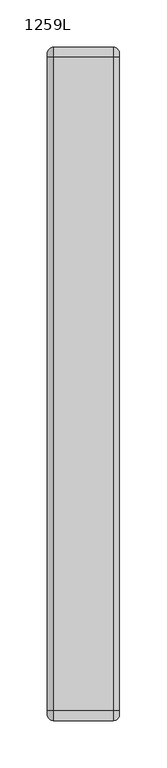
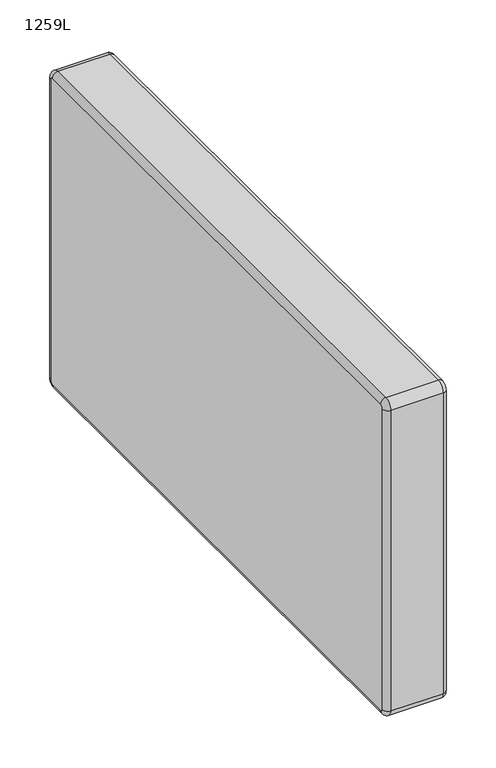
"""IFC4 building model written with IfcOpenShell, lengths in millimetres: furniture geometry, Laguna-Arm-Slim-ERG : 1259L."""

from ifc_helpers import new_model, si_unit, point, frame, origin, place, context, project, spatial, circle_curve, ellipse_curve, trimmed, source, transform, mapped, element, save
from ifc_brep_helpers import plane_surface, cylinder_surface, revolved_surface, advanced_brep


def furniture_1259l_e881bb67(model_context):
    return source(origin(), model_context, "Body", "AdvancedBrep", [
        advanced_brep(
        [(-4732.5921763, 548.3558502, 599.44), (-4732.5921763, 558.5158502, 609.6), (-4738.9421763, 558.5158502, 603.25), (-4738.9421763, 554.7058502, 599.44), (-4738.9421763, 554.7058502, 213.36), (-4732.5921763, 548.3558502, 213.36), (-4738.9421763, 558.5158502, 209.55), (-4732.5921763, 558.5158502, 203.2), (-4738.9421763, 1249.3958502, 209.55), (-4732.5921763, 1249.3958502, 203.2), (-4738.9421763, 1253.2058502, 213.36), (-4732.5921763, 1259.5558502, 213.36), (-4738.9421763, 1253.2058502, 599.44), (-4732.5921763, 1259.5558502, 599.44), (-4738.9421763, 1249.3958502, 603.25), (-4732.5921763, 1249.3958502, 609.6), (-4662.7421763, 558.5158502, 603.25), (-4662.7421763, 554.7058502, 599.44), (-4662.7421763, 554.7058502, 213.36), (-4662.7421763, 558.5158502, 209.55), (-4662.7421763, 1249.3958502, 209.55), (-4662.7421763, 1253.2058502, 213.36), (-4662.7421763, 1253.2058502, 599.44), (-4662.7421763, 1249.3958502, 603.25), (-4669.0921763, 548.3558502, 599.44), (-4669.0921763, 558.5158502, 609.6), (-4669.0921763, 548.3558502, 213.36), (-4669.0921763, 558.5158502, 203.2), (-4669.0921763, 1249.3958502, 203.2), (-4669.0921763, 1259.5558502, 213.36), (-4669.0921763, 1259.5558502, 599.44), (-4669.0921763, 1249.3958502, 609.6)],
        [
            (0, 1, circle_curve(frame((-4732.5921763, 558.5158502, 599.44), z_axis=(-1.0, 0.0, 0.0), x_axis=(0.0, 0.0, 1.0)), 10.16)),
            (1, 2, circle_curve(frame((-4732.5921763, 558.5158502, 603.25), z_axis=(0.0, -1.0, 0.0), x_axis=(-1.0, 0.0, 0.0)), 6.35)),
            (2, 3, circle_curve(frame((-4738.9421763, 558.5158502, 599.44), z_axis=(1.0, 0.0, 0.0), x_axis=(0.0, 0.0, 1.0)), 3.81)),
            (3, 0, circle_curve(frame((-4732.5921763, 554.7058502, 599.44), z_axis=(0.0, 0.0, 1.0), x_axis=(-1.0, 0.0, 0.0)), 6.35)),
            (3, 4),
            (4, 5, circle_curve(frame((-4732.5921763, 554.7058502, 213.36), z_axis=(0.0, 0.0, 1.0), x_axis=(-1.0, 0.0, 0.0)), 6.35)),
            (5, 0),
            (4, 6, circle_curve(frame((-4738.9421763, 558.5158502, 213.36), z_axis=(1.0, 0.0, 0.0), x_axis=(0.0, -1.0, 0.0)), 3.81)),
            (6, 7, circle_curve(frame((-4732.5921763, 558.5158502, 209.55), z_axis=(0.0, -1.0, 0.0), x_axis=(-1.0, 0.0, 0.0)), 6.35)),
            (7, 5, circle_curve(frame((-4732.5921763, 558.5158502, 213.36), z_axis=(-1.0, 0.0, 0.0), x_axis=(0.0, -1.0, 0.0)), 10.16)),
            (6, 8),
            (8, 9, circle_curve(frame((-4732.5921763, 1249.3958502, 209.55), z_axis=(0.0, -1.0, 0.0), x_axis=(-1.0, 0.0, 0.0)), 6.35)),
            (9, 7),
            (8, 10, circle_curve(frame((-4738.9421763, 1249.3958502, 213.36), z_axis=(1.0, 0.0, 0.0), x_axis=(0.0, 0.0, -1.0)), 3.81)),
            (10, 11, circle_curve(frame((-4732.5921763, 1253.2058502, 213.36), z_axis=(0.0, 0.0, -1.0), x_axis=(-1.0, 0.0, 0.0)), 6.35)),
            (11, 9, circle_curve(frame((-4732.5921763, 1249.3958502, 213.36), z_axis=(-1.0, 0.0, 0.0), x_axis=(0.0, 0.0, -1.0)), 10.16)),
            (10, 12),
            (12, 13, circle_curve(frame((-4732.5921763, 1253.2058502, 599.44), z_axis=(0.0, 0.0, -1.0), x_axis=(-1.0, 0.0, 0.0)), 6.35)),
            (13, 11),
            (12, 14, circle_curve(frame((-4738.9421763, 1249.3958502, 599.44), z_axis=(1.0, 0.0, 0.0), x_axis=(0.0, 1.0, 0.0)), 3.81)),
            (14, 15, circle_curve(frame((-4732.5921763, 1249.3958502, 603.25), z_axis=(0.0, 1.0, 0.0), x_axis=(-1.0, 0.0, 0.0)), 6.35)),
            (15, 13, circle_curve(frame((-4732.5921763, 1249.3958502, 599.44), z_axis=(-1.0, 0.0, 0.0), x_axis=(0.0, 1.0, 0.0)), 10.16)),
            (1, 15),
            (14, 2),
            (16, 17, circle_curve(frame((-4662.7421763, 558.5158502, 599.44), z_axis=(1.0, 0.0, 0.0), x_axis=(0.0, 0.0, 1.0)), 3.81)),
            (17, 18),
            (18, 19, circle_curve(frame((-4662.7421763, 558.5158502, 213.36), z_axis=(1.0, 0.0, 0.0), x_axis=(0.0, -1.0, 0.0)), 3.81)),
            (19, 20),
            (20, 21, circle_curve(frame((-4662.7421763, 1249.3958502, 213.36), z_axis=(1.0, 0.0, 0.0), x_axis=(0.0, 0.0, -1.0)), 3.81)),
            (21, 22),
            (22, 23, circle_curve(frame((-4662.7421763, 1249.3958502, 599.44), z_axis=(1.0, 0.0, 0.0), x_axis=(0.0, 1.0, 0.0)), 3.81)),
            (23, 16),
            (0, 24),
            (24, 25, circle_curve(frame((-4669.0921763, 558.5158502, 599.44), z_axis=(-1.0, 0.0, 0.0), x_axis=(0.0, 0.0, 1.0)), 10.16)),
            (25, 1),
            (24, 17, circle_curve(frame((-4669.0921763, 554.7058502, 599.44), z_axis=(0.0, 0.0, 1.0), x_axis=(1.0, 0.0, 0.0)), 6.35)),
            (16, 25, circle_curve(frame((-4669.0921763, 558.5158502, 603.25), z_axis=(0.0, -1.0, 0.0), x_axis=(1.0, 0.0, 0.0)), 6.35)),
            (5, 26),
            (26, 24),
            (26, 18, circle_curve(frame((-4669.0921763, 554.7058502, 213.36), z_axis=(0.0, 0.0, 1.0), x_axis=(1.0, 0.0, 0.0)), 6.35)),
            (7, 27),
            (27, 26, circle_curve(frame((-4669.0921763, 558.5158502, 213.36), z_axis=(-1.0, 0.0, 0.0), x_axis=(0.0, -1.0, 0.0)), 10.16)),
            (27, 19, circle_curve(frame((-4669.0921763, 558.5158502, 209.55), z_axis=(0.0, -1.0, 0.0), x_axis=(1.0, 0.0, 0.0)), 6.35)),
            (9, 28),
            (28, 27),
            (28, 20, circle_curve(frame((-4669.0921763, 1249.3958502, 209.55), z_axis=(0.0, -1.0, 0.0), x_axis=(1.0, 0.0, 0.0)), 6.35)),
            (11, 29),
            (29, 28, circle_curve(frame((-4669.0921763, 1249.3958502, 213.36), z_axis=(-1.0, 0.0, 0.0), x_axis=(0.0, 0.0, -1.0)), 10.16)),
            (29, 21, circle_curve(frame((-4669.0921763, 1253.2058502, 213.36), z_axis=(0.0, 0.0, -1.0), x_axis=(1.0, 0.0, 0.0)), 6.35)),
            (13, 30),
            (30, 29),
            (30, 22, circle_curve(frame((-4669.0921763, 1253.2058502, 599.44), z_axis=(0.0, 0.0, -1.0), x_axis=(1.0, 0.0, 0.0)), 6.35)),
            (15, 31),
            (31, 30, circle_curve(frame((-4669.0921763, 1249.3958502, 599.44), z_axis=(-1.0, 0.0, 0.0), x_axis=(0.0, 1.0, 0.0)), 10.16)),
            (31, 23, circle_curve(frame((-4669.0921763, 1249.3958502, 603.25), z_axis=(0.0, 1.0, 0.0), x_axis=(1.0, 0.0, 0.0)), 6.35)),
            (25, 31),
        ],
        [
            revolved_surface(trimmed(ellipse_curve(frame((-4732.5921763, 558.5158502, 603.25), z_axis=(0.0, 1.0, 0.0), x_axis=(-1.0, 0.0, 0.0)), 6.35, 6.35), [point((-4738.9421763, 558.5158502, 603.25))], [point((-4732.5921763, 558.5158502, 609.6))], True, "CARTESIAN"), (-4732.5921763, 558.5158502, 599.44), (1.0, 0.0, 0.0)),
            cylinder_surface(frame((-4732.5921763, 554.7058502, 599.44), z_axis=(0.0, 0.0, 1.0), x_axis=(-1.0, 0.0, 0.0)), 6.35),
            revolved_surface(trimmed(ellipse_curve(frame((-4732.5921763, 554.7058502, 213.36), z_axis=(0.0, 0.0, 1.0), x_axis=(-1.0, 0.0, 0.0)), 6.35, 6.35), [point((-4738.9421763, 554.7058502, 213.36))], [point((-4732.5921763, 548.3558502, 213.36))], True, "CARTESIAN"), (-4732.5921763, 558.5158502, 213.36), (1.0, 0.0, 0.0)),
            cylinder_surface(frame((-4732.5921763, 558.5158502, 209.55), z_axis=(0.0, -1.0, 0.0), x_axis=(-1.0, 0.0, 0.0)), 6.35),
            revolved_surface(trimmed(ellipse_curve(frame((-4732.5921763, 1249.3958502, 209.55), z_axis=(0.0, -1.0, 0.0), x_axis=(-1.0, 0.0, 0.0)), 6.35, 6.35), [point((-4738.9421763, 1249.3958502, 209.55))], [point((-4732.5921763, 1249.3958502, 203.2))], True, "CARTESIAN"), (-4732.5921763, 1249.3958502, 213.36), (1.0, 0.0, 0.0)),
            cylinder_surface(frame((-4732.5921763, 1253.2058502, 213.36), z_axis=(0.0, 0.0, -1.0), x_axis=(-1.0, 0.0, 0.0)), 6.35),
            revolved_surface(trimmed(ellipse_curve(frame((-4732.5921763, 1253.2058502, 599.44), z_axis=(0.0, 0.0, -1.0), x_axis=(-1.0, 0.0, 0.0)), 6.35, 6.35), [point((-4738.9421763, 1253.2058502, 599.44))], [point((-4732.5921763, 1259.5558502, 599.44))], True, "CARTESIAN"), (-4732.5921763, 1249.3958502, 599.44), (1.0, 0.0, 0.0)),
            cylinder_surface(frame((-4732.5921763, 1249.3958502, 603.25), z_axis=(0.0, 1.0, 0.0), x_axis=(-1.0, 0.0, 0.0)), 6.35),
            plane_surface(frame((-4738.9421763, 1253.2058502, 599.44), z_axis=(-1.0, 0.0, 0.0), x_axis=(0.0, 0.0, -1.0))),
            plane_surface(frame((-4662.7421763, 1253.2058502, 599.44), z_axis=(1.0, 0.0, 0.0), x_axis=(0.0, 0.0, 1.0))),
            cylinder_surface(frame((-4732.5921763, 558.5158502, 599.44), z_axis=(1.0, 0.0, 0.0), x_axis=(0.0, 0.0, 1.0)), 10.16),
            revolved_surface(trimmed(ellipse_curve(frame((-4669.0921763, 558.5158502, 603.25), z_axis=(0.0, 1.0, 0.0), x_axis=(1.0, 0.0, 0.0)), 6.35, 6.35), [point((-4669.0921763, 558.5158502, 609.6))], [point((-4662.7421763, 558.5158502, 603.25))], True, "CARTESIAN"), (-4732.5921763, 558.5158502, 599.44), (1.0, 0.0, 0.0)),
            plane_surface(frame((-4732.5921763, 548.3558502, 599.44), z_axis=(0.0, -1.0, 0.0), x_axis=(0.0, 0.0, -1.0))),
            cylinder_surface(frame((-4669.0921763, 554.7058502, 599.44), z_axis=(0.0, 0.0, 1.0), x_axis=(1.0, 0.0, 0.0)), 6.35),
            cylinder_surface(frame((-4732.5921763, 558.5158502, 213.36), z_axis=(1.0, 0.0, 0.0), x_axis=(0.0, -1.0, 0.0)), 10.16),
            revolved_surface(trimmed(ellipse_curve(frame((-4669.0921763, 554.7058502, 213.36), z_axis=(0.0, 0.0, 1.0), x_axis=(1.0, 0.0, 0.0)), 6.35, 6.35), [point((-4669.0921763, 548.3558502, 213.36))], [point((-4662.7421763, 554.7058502, 213.36))], True, "CARTESIAN"), (-4732.5921763, 558.5158502, 213.36), (1.0, 0.0, 0.0)),
            plane_surface(frame((-4732.5921763, 558.5158502, 203.2), z_axis=(0.0, 0.0, -1.0), x_axis=(0.0, 1.0, 0.0))),
            cylinder_surface(frame((-4669.0921763, 558.5158502, 209.55), z_axis=(0.0, -1.0, 0.0), x_axis=(1.0, 0.0, 0.0)), 6.35),
            cylinder_surface(frame((-4732.5921763, 1249.3958502, 213.36), z_axis=(1.0, 0.0, 0.0), x_axis=(0.0, 0.0, -1.0)), 10.16),
            revolved_surface(trimmed(ellipse_curve(frame((-4669.0921763, 1249.3958502, 209.55), z_axis=(0.0, -1.0, 0.0), x_axis=(1.0, 0.0, 0.0)), 6.35, 6.35), [point((-4669.0921763, 1249.3958502, 203.2))], [point((-4662.7421763, 1249.3958502, 209.55))], True, "CARTESIAN"), (-4732.5921763, 1249.3958502, 213.36), (1.0, 0.0, 0.0)),
            plane_surface(frame((-4732.5921763, 1259.5558502, 213.36), z_axis=(0.0, 1.0, 0.0), x_axis=(0.0, 0.0, 1.0))),
            cylinder_surface(frame((-4669.0921763, 1253.2058502, 213.36), z_axis=(0.0, 0.0, -1.0), x_axis=(1.0, 0.0, 0.0)), 6.35),
            cylinder_surface(frame((-4732.5921763, 1249.3958502, 599.44), z_axis=(1.0, 0.0, 0.0), x_axis=(0.0, 1.0, 0.0)), 10.16),
            revolved_surface(trimmed(ellipse_curve(frame((-4669.0921763, 1253.2058502, 599.44), z_axis=(0.0, 0.0, -1.0), x_axis=(1.0, 0.0, 0.0)), 6.35, 6.35), [point((-4669.0921763, 1259.5558502, 599.44))], [point((-4662.7421763, 1253.2058502, 599.44))], True, "CARTESIAN"), (-4732.5921763, 1249.3958502, 599.44), (1.0, 0.0, 0.0)),
            plane_surface(frame((-4732.5921763, 1249.3958502, 609.6), z_axis=(0.0, 0.0, 1.0), x_axis=(0.0, -1.0, 0.0))),
            cylinder_surface(frame((-4669.0921763, 1249.3958502, 603.25), z_axis=(0.0, 1.0, 0.0), x_axis=(1.0, 0.0, 0.0)), 6.35),
        ],
        [
            (0, [[1, 2, 3, 4]]),
            (1, [[-4, 5, 6, 7]]),
            (2, [[-6, 8, 9, 10]]),
            (3, [[-9, 11, 12, 13]]),
            (4, [[-12, 14, 15, 16]]),
            (5, [[-15, 17, 18, 19]]),
            (6, [[-18, 20, 21, 22]]),
            (7, [[-2, 23, -21, 24]]),
            (8, [[-3, -24, -20, -17, -14, -11, -8, -5]]),
            (9, [[25, 26, 27, 28, 29, 30, 31, 32]]),
            (10, [[-1, 33, 34, 35]]),
            (11, [[-34, 36, -25, 37]]),
            (12, [[-7, 38, 39, -33]]),
            (13, [[-36, -39, 40, -26]]),
            (14, [[-10, 41, 42, -38]]),
            (15, [[-40, -42, 43, -27]]),
            (16, [[-13, 44, 45, -41]]),
            (17, [[-43, -45, 46, -28]]),
            (18, [[-16, 47, 48, -44]]),
            (19, [[-46, -48, 49, -29]]),
            (20, [[-19, 50, 51, -47]]),
            (21, [[-49, -51, 52, -30]]),
            (22, [[-22, 53, 54, -50]]),
            (23, [[-52, -54, 55, -31]]),
            (24, [[-23, -35, 56, -53]]),
            (25, [[-37, -32, -55, -56]]),
        ],
    ),
    ])


if __name__ == "__main__":
    model = new_model("IFC4")
    model_context = context("Model", 3, world=origin())
    ifc_project = project(units=[si_unit("LENGTHUNIT", "METRE", prefix="MILLI")], contexts=[model_context])
    site = spatial("IfcSite", under=ifc_project)
    building = spatial("IfcBuilding", under=site)
    placement = place(None, origin())
    furniture_1259l_shape = furniture_1259l_e881bb67(model_context)
    element("IfcFurniture", 1, ObjectType="Laguna-Arm-Slim-ERG : 1259L", at=placement, inside=building, context=model_context, shape_type="MappedRepresentation", body=[
        mapped(furniture_1259l_shape, transform((0.0, 0.0, 0.0), x_axis=(1.0, 0.0, 0.0), y_axis=(0.0, 1.0, 0.0), z_axis=(0.0, 0.0, 1.0))),
    ])
    save(model, "model.ifc")
